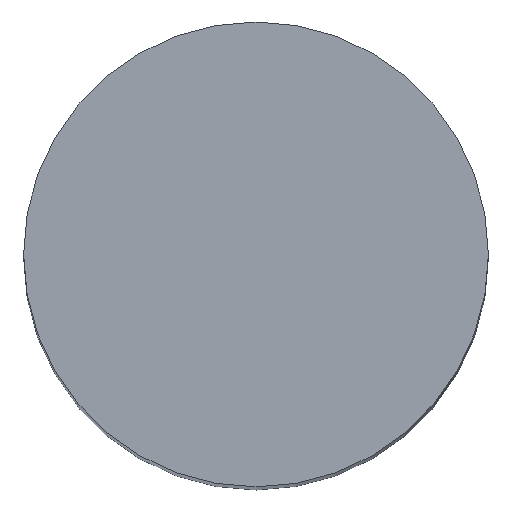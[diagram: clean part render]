
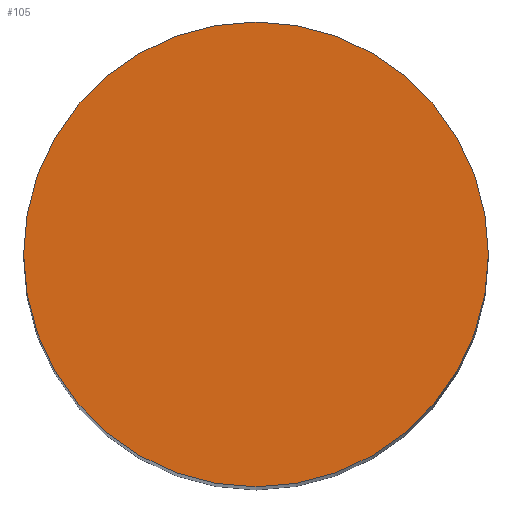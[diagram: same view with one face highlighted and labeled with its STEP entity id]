
A CAD part, top view. The second image highlights one B-rep face of the part: STEP entity #105.
In plain terms, the highlighted planar face has unit normal (0, 0, 1).
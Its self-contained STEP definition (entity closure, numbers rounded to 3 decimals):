
#21 = EDGE_CURVE('',#22,#22,#24,.T.);
#22 = VERTEX_POINT('',#23);
#23 = CARTESIAN_POINT('',(-240.245,-162.675,30.));
#24 = SURFACE_CURVE('',#25,(#30,#42),.PCURVE_S1.);
#25 = CIRCLE('',#26,4.);
#26 = AXIS2_PLACEMENT_3D('',#27,#28,#29);
#27 = CARTESIAN_POINT('',(-244.245,-162.675,30.));
#28 = DIRECTION('',(0.,0.,1.));
#29 = DIRECTION('',(1.,0.,-0.));
#30 = PCURVE('',#31,#36);
#31 = CYLINDRICAL_SURFACE('',#32,4.);
#32 = AXIS2_PLACEMENT_3D('',#33,#34,#35);
#33 = CARTESIAN_POINT('',(-244.245,-162.675,-1.));
#34 = DIRECTION('',(0.,0.,1.));
#35 = DIRECTION('',(1.,0.,-0.));
#36 = DEFINITIONAL_REPRESENTATION('',(#37),#41);
#37 = LINE('',#38,#39);
#38 = CARTESIAN_POINT('',(0.,31.));
#39 = VECTOR('',#40,1.);
#40 = DIRECTION('',(1.,0.));
#41 = ( GEOMETRIC_REPRESENTATION_CONTEXT(2) 
PARAMETRIC_REPRESENTATION_CONTEXT() REPRESENTATION_CONTEXT('2D SPACE',''
  ) );
#42 = PCURVE('',#43,#48);
#43 = PLANE('',#44);
#44 = AXIS2_PLACEMENT_3D('',#45,#46,#47);
#45 = CARTESIAN_POINT('',(-244.245,-162.675,30.));
#46 = DIRECTION('',(0.,0.,1.));
#47 = DIRECTION('',(1.,0.,-0.));
#48 = DEFINITIONAL_REPRESENTATION('',(#49),#53);
#49 = CIRCLE('',#50,4.);
#50 = AXIS2_PLACEMENT_2D('',#51,#52);
#51 = CARTESIAN_POINT('',(0.,0.));
#52 = DIRECTION('',(1.,0.));
#53 = ( GEOMETRIC_REPRESENTATION_CONTEXT(2) 
PARAMETRIC_REPRESENTATION_CONTEXT() REPRESENTATION_CONTEXT('2D SPACE',''
  ) );
#105 = ADVANCED_FACE('',(#106),#43,.T.);
#106 = FACE_BOUND('',#107,.T.);
#107 = EDGE_LOOP('',(#108));
#108 = ORIENTED_EDGE('',*,*,#21,.T.);
